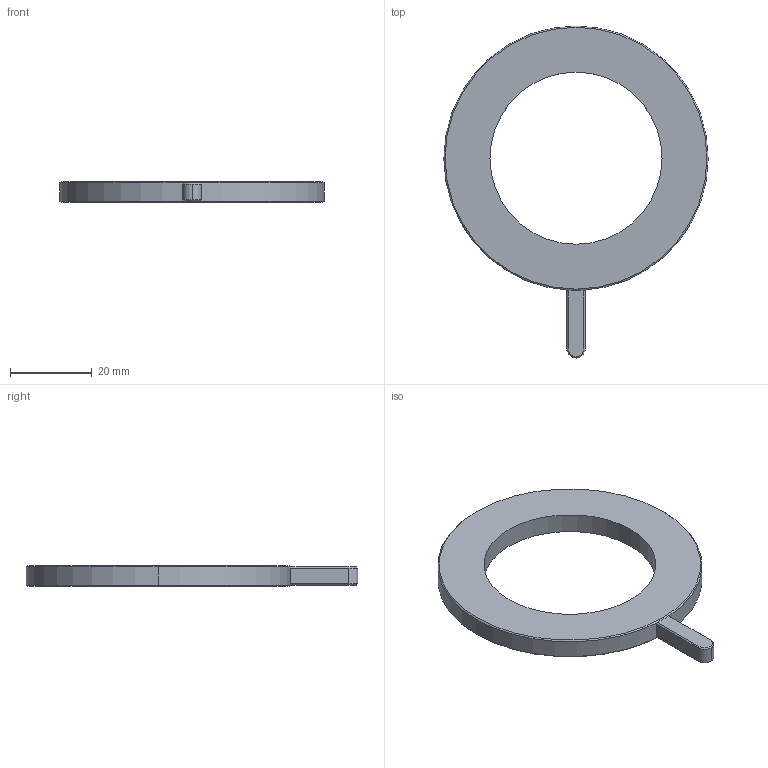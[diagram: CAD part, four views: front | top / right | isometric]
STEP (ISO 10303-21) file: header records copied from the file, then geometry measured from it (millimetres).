
FILE_DESCRIPTION (( 'STEP AP203' ), '1' );
FILE_NAME ('APID42Z.STEP', '2022-07-20T00:30:15', ( '' ), ( '' ), 'SwSTEP 2.0', 'SolidWorks 2021', '' );
FILE_SCHEMA (( 'CONFIG_CONTROL_DESIGN' ));
Length unit declared in the file: millimetre
Products named in the file (1): APID42Z
Bounding box: 64.5 x 81 x 5 mm (x, y, z)
Volume: 9713.4 mm3; surface area: 5638.7 mm2
Topology: 1 solids, 1 shells, 175 faces, 479 edges, 316 vertices
Faces by surface type: plane 160, cone 8, cylinder 7
Entity records: 5522 total; most frequent: CARTESIAN_POINT 995, ORIENTED_EDGE 958, DIRECTION 847, EDGE_CURVE 479, LINE 447, VECTOR 447, VERTEX_POINT 316, AXIS2_PLACEMENT_3D 200
